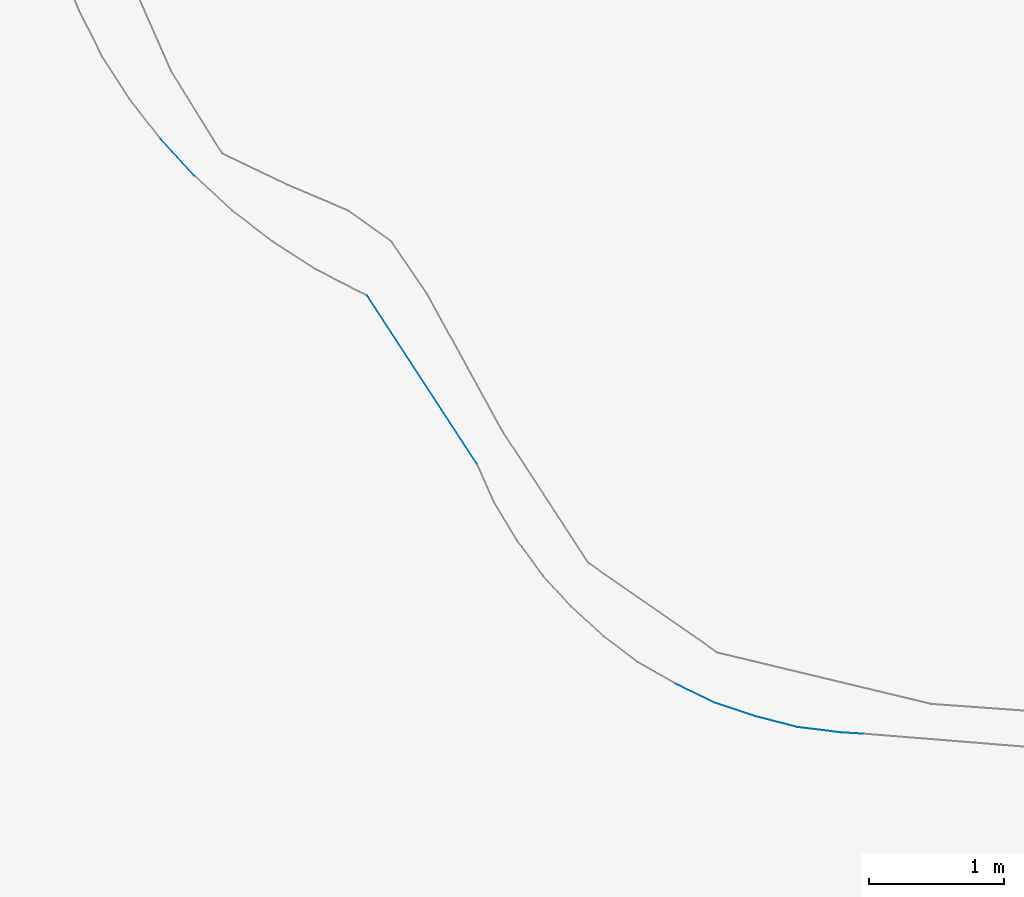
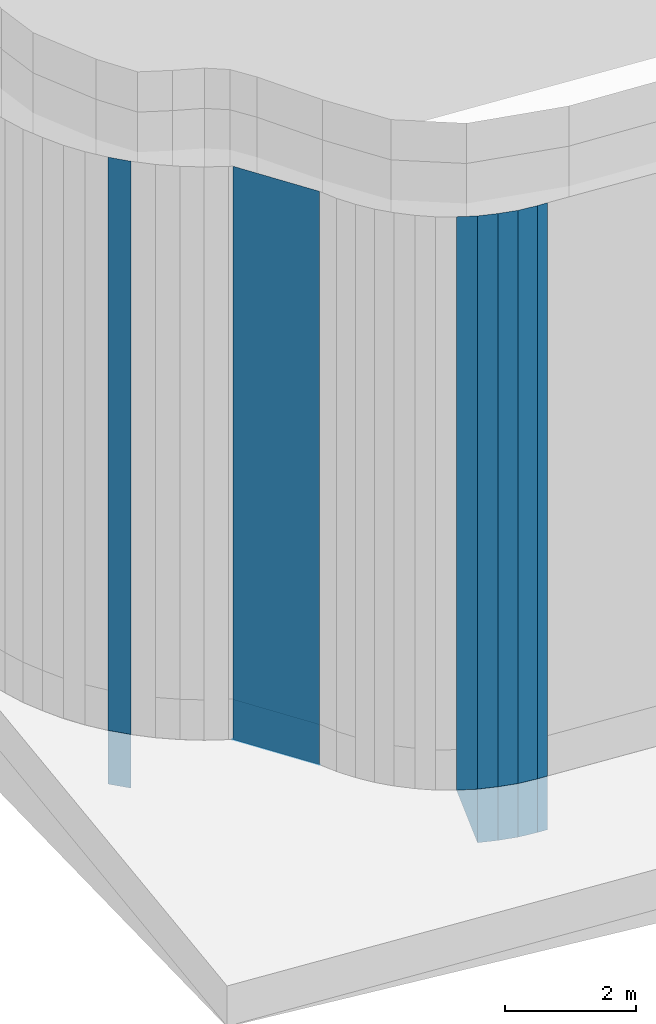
# Not in any storey, part 34 of 136: 15 walls.
"""IFC4 building model written with IfcOpenShell, lengths in metres."""

from ifc_helpers import new_model, entity, si_unit, converted_unit, origin, place, context, subcontext, project, spatial, face_set, surface_model, element, save


model = new_model("IFC4")

# Units and contexts
model_context = context("Model", 3, precision=1e-05, world=origin())
body_context = subcontext(model_context, "Body", "Model", "MODEL_VIEW")
ifc_project = project(units=[converted_unit("PLANEANGLEUNIT", "DEGREE", entity("IfcRatioMeasure", 0.0174532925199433), si_unit("PLANEANGLEUNIT", "RADIAN"), dimensions=[0, 0, 0, 0, 0, 0, 0]), si_unit("AREAUNIT", "SQUARE_METRE"), si_unit("LENGTHUNIT", "METRE")], contexts=[model_context])

# Site, building
site_placement = place(None, origin())
site = spatial("IfcSite", under=ifc_project, at=site_placement, Name="_site")
building_placement = place(site_placement, origin())
building = spatial("IfcBuilding", under=site, at=building_placement, Name="_building")

# Walls
wall_1_placement = place(building_placement, origin())
element("IfcWall", 1, at=wall_1_placement, inside=building, Name="Wall", PredefinedType="NOTDEFINED", context=body_context, shape_type="SurfaceModel", body=[
    surface_model("IfcFaceBasedSurfaceModel", [(180.27, 52.68, 48.6), (179.98, 52.82, 48.6), (179.98, 52.82, 37.925), (180.27, 52.68, 37.93)], [face_set([[[0, 1, 2, 3]]])]),
])
wall_2_placement = place(building_placement, origin())
element("IfcWall", 2, at=wall_2_placement, inside=building, Name="Wall", PredefinedType="NOTDEFINED", context=body_context, shape_type="SurfaceModel", body=[
    surface_model("IfcFaceBasedSurfaceModel", [(178.51, 54.45, 48.6), (177.7, 55.69, 48.6), (177.7, 55.69, 37.926), (178.51, 54.45, 37.923)], [face_set([[[0, 1, 2, 3]]])]),
])
wall_3_placement = place(building_placement, origin())
element("IfcWall", 3, at=wall_3_placement, inside=building, Name="Wall", PredefinedType="NOTDEFINED", context=body_context, shape_type="SurfaceModel", body=[
    surface_model("IfcFaceBasedSurfaceModel", [(176.42, 56.58, 48.6), (176.17, 56.851, 48.6), (176.17, 56.851, 37.93), (176.42, 56.58, 37.93)], [face_set([[[0, 1, 2, 3]]])]),
])
wall_4_placement = place(building_placement, origin())
element("IfcWall", 4, at=wall_4_placement, inside=building, Name="Wall", PredefinedType="NOTDEFINED", context=body_context, shape_type="SurfaceModel", body=[
    surface_model("IfcFaceBasedSurfaceModel", [(177.7, 55.69, 37.93), (178.51, 54.45, 37.93), (178.51, 54.45, 37.923), (177.7, 55.69, 37.926)], [face_set([[[0, 1, 2, 3]]])]),
])
wall_5_placement = place(building_placement, origin())
element("IfcWall", 5, at=wall_5_placement, inside=building, Name="Wall", PredefinedType="NOTDEFINED", context=body_context, shape_type="SurfaceModel", body=[
    surface_model("IfcFaceBasedSurfaceModel", [(177.7, 55.69, 37.93), (178.51, 54.45, 37.93), (178.51, 54.45, 38.68), (177.7, 55.69, 38.68)], [face_set([[[0, 1, 2, 3]]])]),
])
wall_6_placement = place(building_placement, origin())
element("IfcWall", 6, at=wall_6_placement, inside=building, Name="Wall", PredefinedType="NOTDEFINED", context=body_context, shape_type="SurfaceModel", body=[
    surface_model("IfcFaceBasedSurfaceModel", [(180.57, 52.58, 37.93), (180.88, 52.5, 37.93), (180.88, 52.5, 36.93), (180.57, 52.58, 36.93)], [face_set([[[0, 1, 2, 3]]])]),
])
wall_7_placement = place(building_placement, origin())
element("IfcWall", 7, at=wall_7_placement, inside=building, Name="Wall", PredefinedType="NOTDEFINED", context=body_context, shape_type="SurfaceModel", body=[
    surface_model("IfcFaceBasedSurfaceModel", [(181.2, 52.46, 37.93), (181.37, 52.45, 37.93), (181.37, 52.45, 36.93), (181.2, 52.46, 36.93)], [face_set([[[0, 1, 2, 3]]])]),
])
wall_8_placement = place(building_placement, origin())
element("IfcWall", 8, at=wall_8_placement, inside=building, Name="Wall", PredefinedType="NOTDEFINED", context=body_context, shape_type="SurfaceModel", body=[
    surface_model("IfcFaceBasedSurfaceModel", [(181.2, 52.46, 48.6), (180.88, 52.5, 48.6), (180.88, 52.5, 37.93), (181.2, 52.46, 37.93)], [face_set([[[0, 1, 2, 3]]])]),
])
wall_9_placement = place(building_placement, origin())
element("IfcWall", 9, at=wall_9_placement, inside=building, Name="Wall", PredefinedType="NOTDEFINED", context=body_context, shape_type="SurfaceModel", body=[
    surface_model("IfcFaceBasedSurfaceModel", [(180.88, 52.5, 37.93), (181.2, 52.46, 37.93), (181.2, 52.46, 36.93), (180.88, 52.5, 36.93)], [face_set([[[0, 1, 2, 3]]])]),
])
wall_10_placement = place(building_placement, origin())
element("IfcWall", 10, at=wall_10_placement, inside=building, Name="Wall", PredefinedType="NOTDEFINED", context=body_context, shape_type="SurfaceModel", body=[
    surface_model("IfcFaceBasedSurfaceModel", [(180.27, 52.68, 37.93), (180.57, 52.58, 37.93), (180.57, 52.58, 36.93), (180.27, 52.68, 36.93)], [face_set([[[0, 1, 2, 3]]])]),
])
wall_11_placement = place(building_placement, origin())
element("IfcWall", 11, at=wall_11_placement, inside=building, Name="Wall", PredefinedType="NOTDEFINED", context=body_context, shape_type="SurfaceModel", body=[
    surface_model("IfcFaceBasedSurfaceModel", [(176.17, 56.851, 37.93), (176.42, 56.58, 37.93), (176.42, 56.58, 36.93), (176.17, 56.851, 36.93)], [face_set([[[0, 1, 2, 3]]])]),
])
wall_12_placement = place(building_placement, origin())
element("IfcWall", 12, at=wall_12_placement, inside=building, Name="Wall", PredefinedType="NOTDEFINED", context=body_context, shape_type="SurfaceModel", body=[
    surface_model("IfcFaceBasedSurfaceModel", [(181.37, 52.45, 48.6), (181.2, 52.46, 48.6), (181.2, 52.46, 37.93), (181.37, 52.45, 37.93)], [face_set([[[0, 1, 2, 3]]])]),
])
wall_13_placement = place(building_placement, origin())
element("IfcWall", 13, at=wall_13_placement, inside=building, Name="Wall", PredefinedType="NOTDEFINED", context=body_context, shape_type="SurfaceModel", body=[
    surface_model("IfcFaceBasedSurfaceModel", [(179.98, 52.82, 37.93), (180.27, 52.68, 37.93), (180.27, 52.68, 36.93), (179.98, 52.82, 37.925)], [face_set([[[0, 1, 2, 3]]])]),
])
wall_14_placement = place(building_placement, origin())
element("IfcWall", 14, at=wall_14_placement, inside=building, Name="Wall", PredefinedType="NOTDEFINED", context=body_context, shape_type="SurfaceModel", body=[
    surface_model("IfcFaceBasedSurfaceModel", [(180.88, 52.5, 48.6), (180.57, 52.58, 48.6), (180.57, 52.58, 37.93), (180.88, 52.5, 37.93)], [face_set([[[0, 1, 2, 3]]])]),
])
wall_15_placement = place(building_placement, origin())
element("IfcWall", 15, at=wall_15_placement, inside=building, Name="Wall", PredefinedType="NOTDEFINED", context=body_context, shape_type="SurfaceModel", body=[
    surface_model("IfcFaceBasedSurfaceModel", [(180.57, 52.58, 48.6), (180.27, 52.68, 48.6), (180.27, 52.68, 37.93), (180.57, 52.58, 37.93)], [face_set([[[0, 1, 2, 3]]])]),
])

save(model, "model.ifc")
